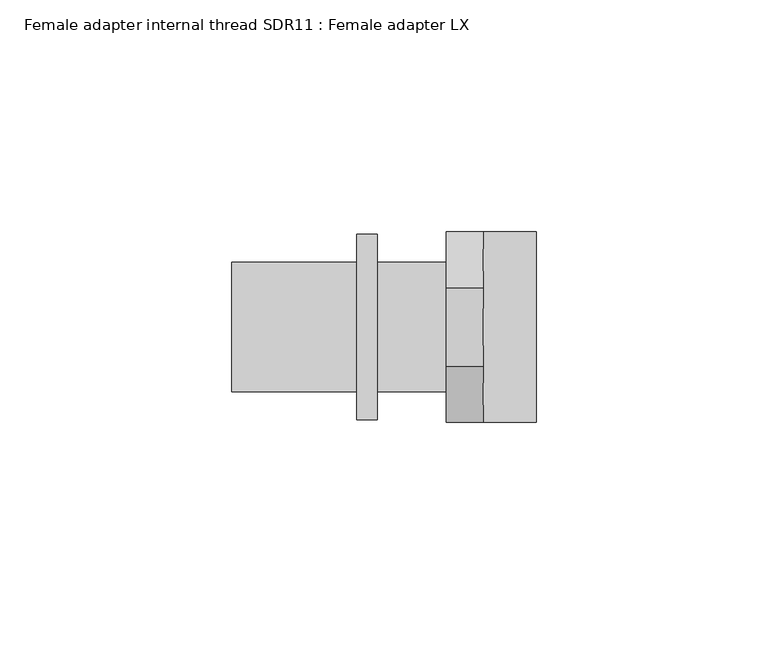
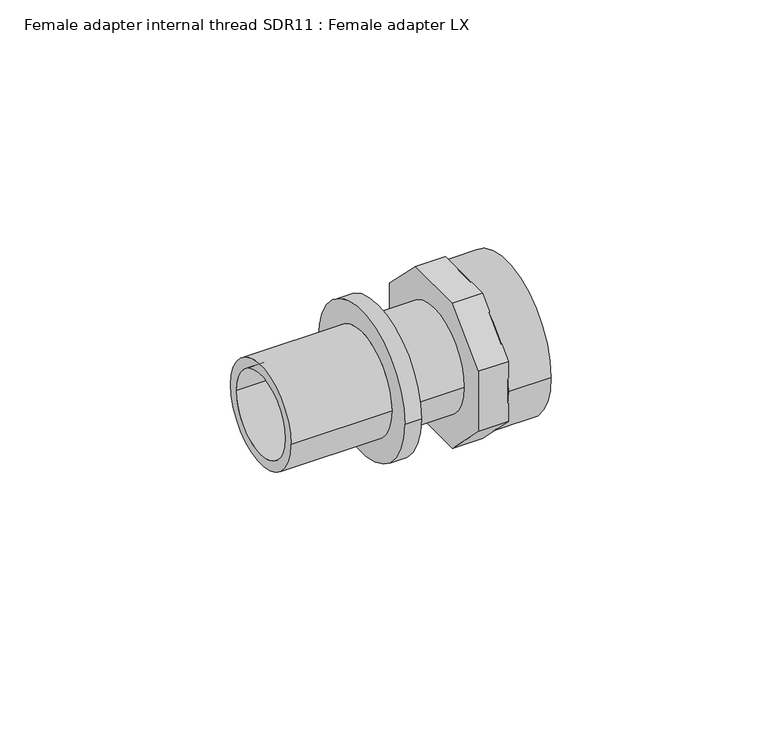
"""IFC4 building model written with IfcOpenShell, lengths in millimetres: pipe fitting geometry, Female adapter internal thread SDR11 : Female adapter LX."""

from ifc_helpers import new_model, si_unit, point, frame, origin, origin_2d, place, context, project, spatial, polyline, circle_curve, trimmed, segment, composite_curve, outline, extrude, source, transform, mapped, element, save
from ifc_brep_helpers import plane_surface, cylinder_surface, revolved_surface, advanced_brep


def female_adapter_internal_thread_sdr11_female_adapter_lx_59931cbf(model_context):
    return source(origin(), model_context, "Body", "SolidModel", [
        extrude(outline(composite_curve([segment(trimmed(circle_curve(origin_2d(), 20.5), [point((20.5, 0.0))], [point((-20.5, 0.0))], False, "CARTESIAN"), True, "CONTINUOUS"), segment(trimmed(circle_curve(origin_2d(), 20.5), [point((-20.5, 0.0))], [point((20.5, 0.0))], False, "CARTESIAN"), True, "CONTINUOUS")], self_intersect=False), holes=[composite_curve([segment(trimmed(circle_curve(origin_2d(), 15.2), [point((15.2, 0.0))], [point((-15.2, 0.0))], True, "CARTESIAN"), True, "CONTINUOUS"), segment(trimmed(circle_curve(origin_2d(), 15.2), [point((-15.2, 0.0))], [point((15.2, 0.0))], True, "CARTESIAN"), True, "CONTINUOUS")], self_intersect=False)]), frame((8.0, 0.0, 0.0), z_axis=(1.0, 0.0, 0.0), x_axis=(0.0, 1.0, 0.0)), (0.0, 0.0, 1.0), 11.4),
        advanced_brep(
        [(-19.3, 13.95, 0.0), (-19.3, -13.95, 0.0), (-46.2, -13.95, 0.0), (-46.2, 13.95, 0.0), (-14.9, 20.0, 0.0), (-14.9, -20.0, 0.0), (-19.3, -20.0, 0.0), (-19.3, 20.0, 0.0), (0.0, 13.95, 0.0), (0.0, -13.95, 0.0), (-14.9, -13.95, 0.0), (-14.9, 13.95, 0.0), (-46.2, 11.2, 0.0), (-46.2, -11.2, 0.0), (0.0, -11.2, 0.0), (0.0, 11.2, 0.0)],
        [
            (0, 1, circle_curve(frame((-19.3, 0.0, 0.0), z_axis=(-1.0, 0.0, 0.0), x_axis=(0.0, -1.0, 0.0)), 13.95)),
            (1, 2),
            (2, 3, circle_curve(frame((-46.2, 0.0, 0.0), z_axis=(1.0, 0.0, 0.0), x_axis=(0.0, -1.0, 0.0)), 13.95)),
            (3, 0),
            (4, 5, circle_curve(frame((-14.9, 0.0, 0.0), z_axis=(-1.0, 0.0, 0.0), x_axis=(0.0, -1.0, 0.0)), 20.0)),
            (5, 6),
            (6, 7, circle_curve(frame((-19.3, 0.0, 0.0), z_axis=(1.0, 0.0, 0.0), x_axis=(0.0, -1.0, 0.0)), 20.0)),
            (7, 4),
            (8, 9, circle_curve(frame((0.0, 0.0, 0.0), z_axis=(-1.0, 0.0, 0.0), x_axis=(0.0, -1.0, 0.0)), 13.95)),
            (9, 10),
            (10, 11, circle_curve(frame((-14.9, 0.0, 0.0), z_axis=(1.0, 0.0, 0.0), x_axis=(0.0, -1.0, 0.0)), 13.95)),
            (11, 8),
            (12, 13, circle_curve(frame((-46.2, 0.0, 0.0), z_axis=(-1.0, 0.0, 0.0), x_axis=(0.0, -1.0, 0.0)), 11.2)),
            (13, 14),
            (14, 15, circle_curve(frame((0.0, 0.0, 0.0), z_axis=(1.0, 0.0, 0.0), x_axis=(0.0, -1.0, 0.0)), 11.2)),
            (15, 12),
            (2, 3, circle_curve(frame((-46.2, 0.0, 0.0), z_axis=(-1.0, 0.0, 0.0), x_axis=(0.0, 1.0, 0.0)), 13.95)),
            (12, 13, circle_curve(frame((-46.2, 0.0, 0.0), z_axis=(1.0, 0.0, 0.0), x_axis=(0.0, 1.0, 0.0)), 11.2)),
            (1, 0, circle_curve(frame((-19.3, 0.0, 0.0), z_axis=(-1.0, 0.0, 0.0), x_axis=(0.0, 1.0, 0.0)), 13.95)),
            (6, 7, circle_curve(frame((-19.3, 0.0, 0.0), z_axis=(-1.0, 0.0, 0.0), x_axis=(0.0, 1.0, 0.0)), 20.0)),
            (5, 4, circle_curve(frame((-14.9, 0.0, 0.0), z_axis=(-1.0, 0.0, 0.0), x_axis=(0.0, 1.0, 0.0)), 20.0)),
            (10, 11, circle_curve(frame((-14.9, 0.0, 0.0), z_axis=(-1.0, 0.0, 0.0), x_axis=(0.0, 1.0, 0.0)), 13.95)),
            (9, 8, circle_curve(frame((0.0, 0.0, 0.0), z_axis=(-1.0, 0.0, 0.0), x_axis=(0.0, 1.0, 0.0)), 13.95)),
            (14, 15, circle_curve(frame((0.0, 0.0, 0.0), z_axis=(-1.0, 0.0, 0.0), x_axis=(0.0, 1.0, 0.0)), 11.2)),
        ],
        [
            cylinder_surface(frame((0.0, 0.0, 0.0), z_axis=(1.0, 0.0, 0.0), x_axis=(0.0, -1.0, 0.0)), 13.95),
            cylinder_surface(frame((0.0, 0.0, 0.0), z_axis=(1.0, 0.0, 0.0), x_axis=(0.0, -1.0, 0.0)), 20.0),
            revolved_surface(polyline([(0.0, -11.2, 0.0), (-46.2, -11.2, 0.0)]), (0.0, 0.0, 0.0), (1.0, 0.0, 0.0)),
            plane_surface(frame((-46.2, 0.0, 0.0), z_axis=(-1.0, 0.0, 0.0), x_axis=(0.0, 1.0, 0.0))),
            cylinder_surface(frame((0.0, 0.0, 0.0), z_axis=(1.0, 0.0, 0.0), x_axis=(0.0, 1.0, 0.0)), 13.95),
            plane_surface(frame((-19.3, 0.0, 0.0), z_axis=(-1.0, 0.0, 0.0), x_axis=(0.0, 1.0, 0.0))),
            cylinder_surface(frame((0.0, 0.0, 0.0), z_axis=(1.0, 0.0, 0.0), x_axis=(0.0, 1.0, 0.0)), 20.0),
            plane_surface(frame((-14.9, 0.0, 0.0), z_axis=(1.0, 0.0, 0.0), x_axis=(0.0, 1.0, 0.0))),
            plane_surface(frame((0.0, 0.0, 0.0), z_axis=(1.0, 0.0, 0.0), x_axis=(0.0, 1.0, 0.0))),
            revolved_surface(polyline([(0.0, 11.2, 0.0), (-46.2, 11.2, 0.0)]), (0.0, 0.0, 0.0), (1.0, 0.0, 0.0)),
        ],
        [
            (0, [[1, 2, 3, 4]]),
            (1, [[5, 6, 7, 8]]),
            (0, [[9, 10, 11, 12]]),
            (2, [[13, 14, 15, 16]]),
            (3, [[17, -3], [18, -13]]),
            (4, [[19, -4, -17, -2]]),
            (5, [[20, -7], [-19, -1]]),
            (6, [[21, -8, -20, -6]]),
            (7, [[-21, -5], [22, -11]]),
            (4, [[23, -12, -22, -10]]),
            (8, [[-23, -9], [24, -15]]),
            (9, [[-18, -16, -24, -14]]),
        ],
    ),
        extrude(outline(polyline([(-20.5, 8.491378), (-8.491378, 20.5), (8.491378, 20.5), (20.5, 8.491378), (20.5, -8.491378), (8.491378, -20.5), (-8.491378, -20.5), (-20.5, -8.491378), (-20.5, 8.491378)])), frame((0.0, 0.0, 0.0), z_axis=(1.0, 0.0, 0.0), x_axis=(0.0, 1.0, 0.0)), (0.0, 0.0, 1.0), 8.0),
    ])


if __name__ == "__main__":
    model = new_model("IFC4")
    model_context = context("Model", 3, world=origin())
    ifc_project = project(units=[si_unit("LENGTHUNIT", "METRE", prefix="MILLI")], contexts=[model_context])
    site = spatial("IfcSite", under=ifc_project)
    building = spatial("IfcBuilding", under=site)
    placement = place(None, origin())
    female_adapter_internal_thread_sdr11_female_adapter_lx_shape = female_adapter_internal_thread_sdr11_female_adapter_lx_59931cbf(model_context)
    element("IfcPipeFitting", 1, ObjectType="Female adapter internal thread SDR11 : Female adapter LX", at=placement, inside=building, context=model_context, shape_type="MappedRepresentation", body=[
        mapped(female_adapter_internal_thread_sdr11_female_adapter_lx_shape, transform((0.0, 0.0, 0.0), x_axis=(1.0, 0.0, 0.0), y_axis=(0.0, 1.0, 0.0), z_axis=(0.0, 0.0, 1.0))),
    ])
    save(model, "model.ifc")
